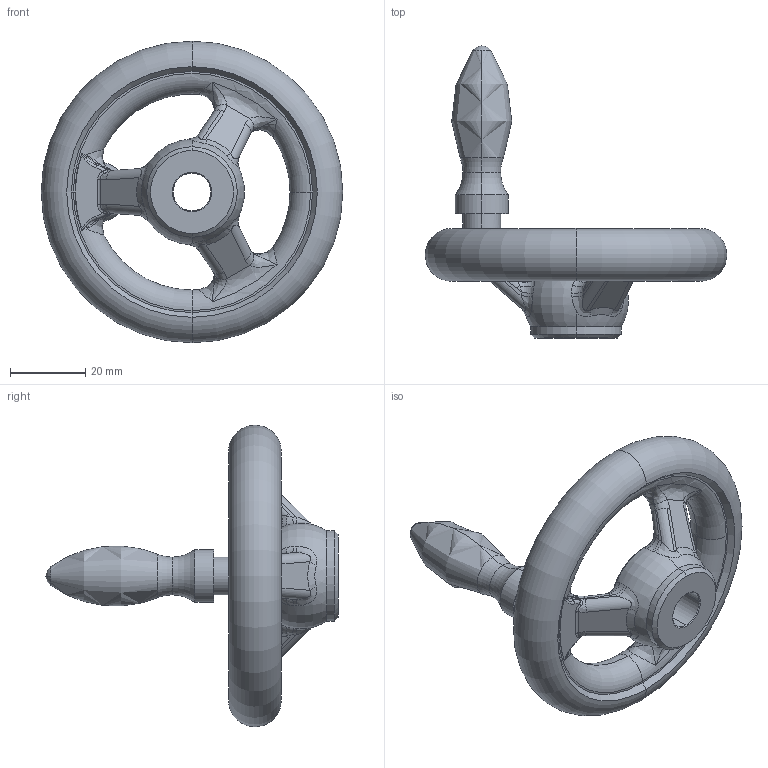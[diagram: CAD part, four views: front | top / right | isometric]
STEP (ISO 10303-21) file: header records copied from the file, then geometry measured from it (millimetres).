
FILE_DESCRIPTION (( 'STEP AP203' ), '1' );
FILE_NAME ('din950_f4_80x10.step', '2010-03-23T10:38:14', ( '_' ), ( '_' ), 'SwSTEP 2.0', 'SolidWorks 2010', '' );
FILE_SCHEMA (( 'CONFIG_CONTROL_DESIGN' ));
Length unit declared in the file: millimetre
Products named in the file (1): din950_f4_80x10
Bounding box: 79.99 x 77.5 x 79.99 mm (x, y, z)
Volume: 47141.1 mm3; surface area: 14759.5 mm2
Topology: 1 solids, 1 shells, 204 faces, 499 edges, 280 vertices
Faces by surface type: bspline 109, torus 33, cylinder 28, plane 18, cone 14, sphere 2
Entity records: 23587 total; most frequent: CARTESIAN_POINT 19385, ORIENTED_EDGE 974, DIRECTION 698, EDGE_CURVE 487, AXIS2_PLACEMENT_3D 323, VERTEX_POINT 280, CIRCLE 227, EDGE_LOOP 207
